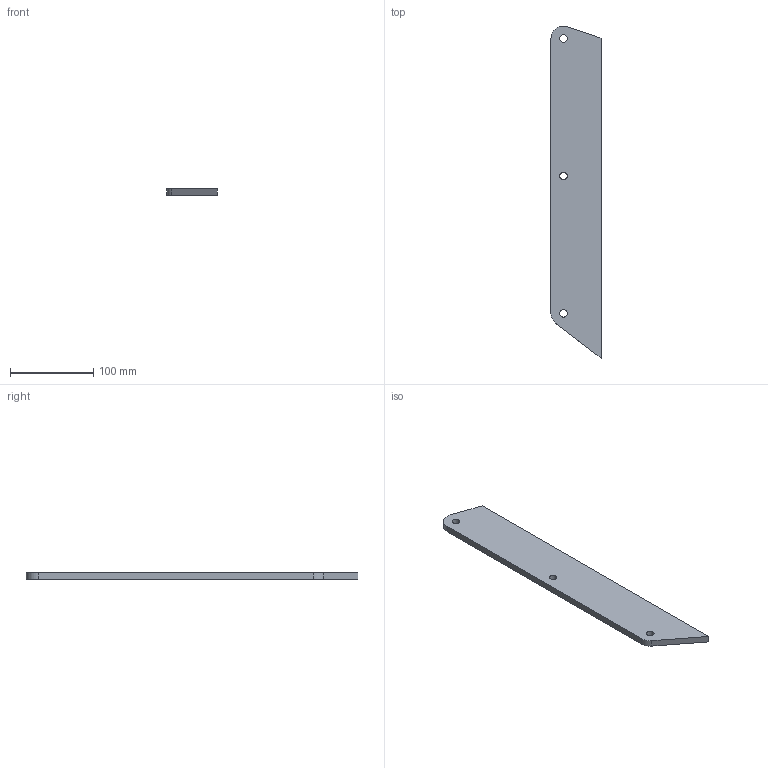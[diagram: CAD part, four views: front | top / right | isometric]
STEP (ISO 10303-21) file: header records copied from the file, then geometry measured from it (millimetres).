
FILE_DESCRIPTION(/* description */ (''),/* implementation_level */ '2;1');
FILE_NAME(/* name */ 'Pos134-Plaatwerk D= 8-S235JRG2-3st',/* time_stamp */ '2024-08-06T13:37:44+02:00',/* author */ (''),/* organization */ (''),/* preprocessor_version */ 'ST-DEVELOPER v16.5',/* originating_system */ 'HiCAD 2024 2901.2 Build 361',/* authorisation */ '');
FILE_SCHEMA (('AUTOMOTIVE_DESIGN { 1 0 10303 214 1 1 1 1 }'));
Length unit declared in the file: millimetre
Products named in the file (1): Pos134-Plaatwerk D= 8-S235JRG2-3st
Bounding box: 60 x 398.27 x 8 mm (x, y, z)
Volume: 175640.7 mm3; surface area: 51520.5 mm2
Topology: 1 solids, 1 shells, 11 faces, 30 edges, 21 vertices
Faces by surface type: plane 6, cylinder 5
Full cylindrical faces by diameter (mm): 9 x3
Entity records: 586 total; most frequent: DIRECTION 56, CARTESIAN_POINT 53, PRESENTATION_STYLE_ASSIGNMENT 49, COLOUR_RGB 49, DRAUGHTING_PRE_DEFINED_CURVE_FONT 48, CURVE_STYLE 48, OVER_RIDING_STYLED_ITEM 48, ORIENTED_EDGE 48
